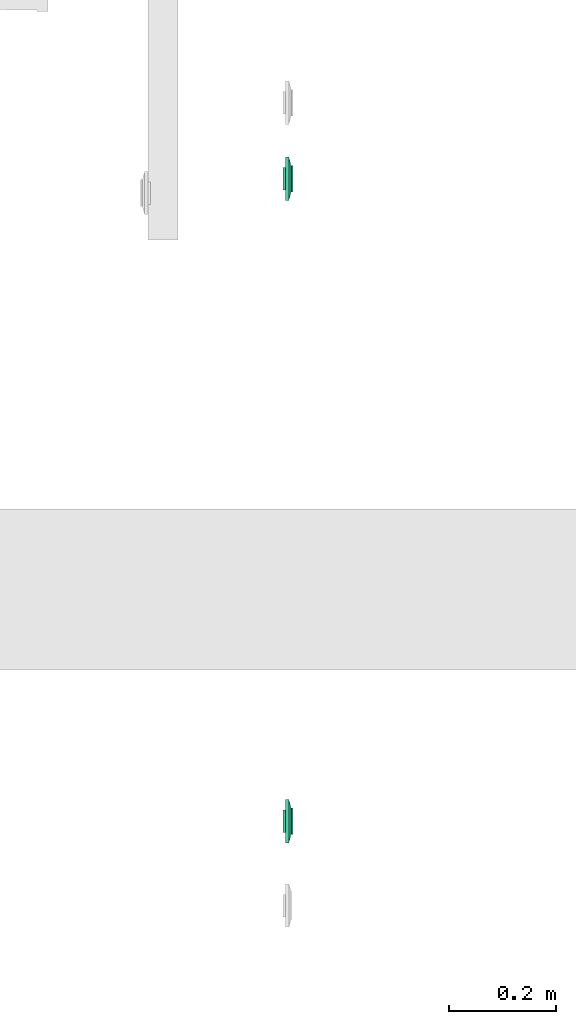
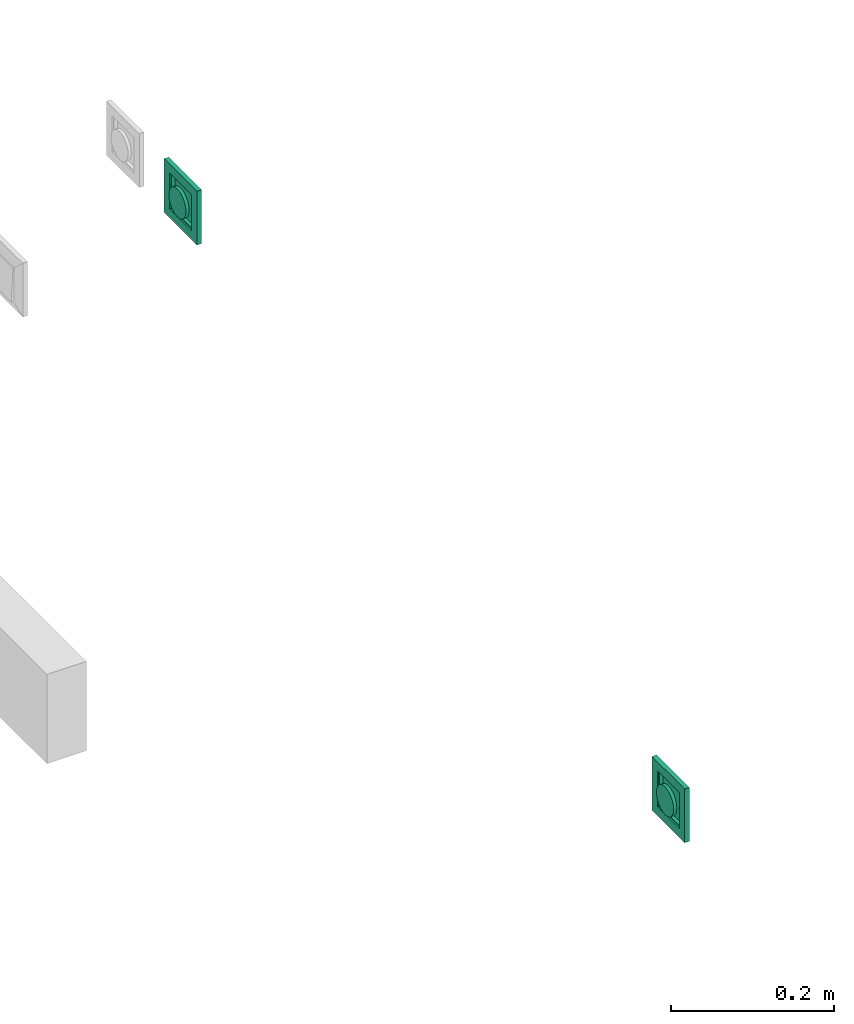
# One storey, part 131 of 153: 2 flow terminals.
"""IFC2X3 building model written with IfcOpenShell, lengths in metres."""

import ifcopenshell
import ifcopenshell.guid

model = None  # the IFC model being written
_history = None  # IfcOwnerHistory: only IFC2X3 demands one
_inside = {}  # id of a spatial element -> (the spatial element, [elements in it])
_under = {}  # id of a project, library or spatial element -> (it, [spatial elements below it])
_declared = {}  # id of a project -> (the project, [libraries it declares])
_typed = {}  # id of a type object -> (the type object, [elements of that type])
_made_of = {}  # id of a material, layer set ... -> (it, [elements and type objects made of it])


def new_model(schema):
    """Start an empty IFC model of exactly this schema.

    Asked for "IFC4X3", IfcOpenShell would pick the latest addendum, in which some entities
    have other attributes; the version numbers below select the first issue.
    IFC2X3 requires an IfcOwnerHistory on every rooted entity: one is made here for all.
    """
    global model, _history
    if schema == "IFC4X3":
        model = ifcopenshell.file(schema_version=(4, 3, 0, 0))
    else:
        model = ifcopenshell.file(schema=schema)
    _inside.clear()
    _under.clear()
    _declared.clear()
    _typed.clear()
    _made_of.clear()
    _history = None
    if model.schema == "IFC2X3":
        org = make("IfcOrganization", Name="unknown")
        user = make(
            "IfcPersonAndOrganization",
            ThePerson=make("IfcPerson", FamilyName="unknown"),
            TheOrganization=org,
        )
        app = make(
            "IfcApplication",
            ApplicationDeveloper=org,
            Version="unknown",
            ApplicationFullName="unknown",
            ApplicationIdentifier="unknown",
        )
        _history = make(
            "IfcOwnerHistory",
            OwningUser=user,
            OwningApplication=app,
            ChangeAction="ADDED",
            CreationDate=0,
        )
    return model


def make(cls, **values):
    """One entity of the class cls with the attributes given. An attribute that is None is left unset."""
    return model.create_entity(
        cls, **{name: value for name, value in values.items() if value is not None}
    )


def entity(cls, *values):
    """Any entity or typed value of the class cls, its attributes in the order of the schema. None: left unset."""
    e = model.create_entity(cls)
    for i, value in enumerate(values):
        if value is not None:
            e[i] = value
    return e


def rooted(cls, **values):
    """An entity with a GlobalId (a new one), such as an element, a storey or a relation."""
    return make(cls, GlobalId=ifcopenshell.guid.new(), OwnerHistory=_history, **values)


def si_unit(unit_type, name, prefix=None):
    """IfcSIUnit, for example si_unit("LENGTHUNIT", "METRE", prefix="MILLI")."""
    return make("IfcSIUnit", UnitType=unit_type, Prefix=prefix, Name=name)


def converted_unit(unit_type, name, factor, base, dimensions=None, offset=None):
    """IfcConversionBasedUnit, such as the inch: factor (a typed value) times the base unit."""
    return make(
        "IfcConversionBasedUnit"
        if offset is None
        else "IfcConversionBasedUnitWithOffset",
        ConversionOffset=offset,
        Dimensions=None
        if dimensions is None
        else entity("IfcDimensionalExponents", *dimensions),
        UnitType=unit_type,
        Name=name,
        ConversionFactor=make(
            "IfcMeasureWithUnit", ValueComponent=factor, UnitComponent=base
        ),
    )


def derived_unit(unit_type, elements):
    """IfcDerivedUnit: a product of units, each with its exponent."""
    return make(
        "IfcDerivedUnit",
        Elements=[
            make("IfcDerivedUnitElement", Unit=unit, Exponent=power)
            for unit, power in elements
        ],
        UnitType=unit_type,
    )


def assignment(units):
    """IfcUnitAssignment: the units of a project."""
    return None if units is None else make("IfcUnitAssignment", Units=units)


def point(xyz):
    """IfcCartesianPoint."""
    return None if xyz is None else make("IfcCartesianPoint", Coordinates=xyz)


def direction(xyz):
    """IfcDirection."""
    return None if xyz is None else make("IfcDirection", DirectionRatios=xyz)


def frame(location, z_axis=None, x_axis=None):
    """IfcAxis2Placement3D, a coordinate frame: its origin and axes. An axis left out is left unset."""
    return make(
        "IfcAxis2Placement3D",
        Location=point(location),
        Axis=direction(z_axis),
        RefDirection=direction(x_axis),
    )


def origin():
    """The frame at (0, 0, 0) with its axes left unset."""
    return frame((0.0, 0.0, 0.0))


def place(relative_to, where):
    """IfcLocalPlacement: puts the frame where relative to a parent placement (None: the world)."""
    return make(
        "IfcLocalPlacement", PlacementRelTo=relative_to, RelativePlacement=where
    )


def context(
    kind, dimensions, precision=None, world=None, true_north=None, identifier=None
):
    """IfcGeometricRepresentationContext, for example the 3D "Model" context."""
    return make(
        "IfcGeometricRepresentationContext",
        ContextIdentifier=identifier,
        ContextType=kind,
        CoordinateSpaceDimension=dimensions,
        Precision=precision,
        WorldCoordinateSystem=world,
        TrueNorth=true_north,
    )


def subcontext(parent, identifier, kind, view, scale=None):
    """IfcGeometricRepresentationSubContext, for example "Body" below "Model"."""
    return make(
        "IfcGeometricRepresentationSubContext",
        ContextIdentifier=identifier,
        ContextType=kind,
        ParentContext=parent,
        TargetScale=scale,
        TargetView=view,
    )


def project(units=None, contexts=None):
    """IfcProject with its units and contexts."""
    return rooted(
        "IfcProject",
        Name="project",
        RepresentationContexts=contexts,
        UnitsInContext=assignment(units),
    )


def spatial(cls, under=None, at=None, **own):
    """A site, building, storey or space (cls), placed at a placement, below another one or the project."""
    s = rooted(cls, ObjectPlacement=at, **own)
    if under is not None:
        _under.setdefault(under.id(), (under, []))[1].append(s)
    return s


def faces_of(points, faces, orient=None, outer=None):
    """IfcFace entities. A face is a list of loops; a loop is a list of indices into points, from 0.

    orient and outer hold one flag for each loop. By default every Orientation is true, the
    first loop of a face is its IfcFaceOuterBound and the others are IfcFaceBound.
    """
    made = []
    for i, loops in enumerate(faces):
        bounds = []
        for j, loop in enumerate(loops):
            is_outer = j == 0 if outer is None else outer[i][j]
            bounds.append(
                make(
                    "IfcFaceOuterBound" if is_outer else "IfcFaceBound",
                    Bound=make("IfcPolyLoop", Polygon=[points[k] for k in loop]),
                    Orientation=True if orient is None else orient[i][j],
                )
            )
        made.append(make("IfcFace", Bounds=bounds))
    return made


def faceted_brep(points, faces, orient=None, outer=None, voids=None):
    """IfcFacetedBrep: a solid bounded by flat faces; with voids (closed shells), ...WithVoids."""
    shared = [point(p) for p in points]
    hull = make("IfcClosedShell", CfsFaces=faces_of(shared, faces, orient, outer))
    if voids is None:
        return make("IfcFacetedBrep", Outer=hull)
    return make(
        "IfcFacetedBrepWithVoids",
        Outer=hull,
        Voids=[
            make(cls, CfsFaces=faces_of(shared, fs, o, b)) for cls, fs, o, b in voids
        ],
    )


def shape(context_of_items, identifier, shape_type, items):
    """IfcShapeRepresentation: the items that make up one representation, for example the "Body"."""
    return make(
        "IfcShapeRepresentation",
        ContextOfItems=context_of_items,
        RepresentationIdentifier=identifier,
        RepresentationType=shape_type,
        Items=items,
    )


def source(mapping_origin, context_of_items, identifier, shape_type, items):
    """IfcRepresentationMap: a shape defined once, which mapped items show again and again."""
    return make(
        "IfcRepresentationMap",
        MappingOrigin=mapping_origin,
        MappedRepresentation=shape(context_of_items, identifier, shape_type, items),
    )


def transform(
    local_origin,
    x_axis=None,
    y_axis=None,
    z_axis=None,
    scale=None,
    scale2=None,
    scale3=None,
    uniform=True,
):
    """IfcCartesianTransformationOperator3D, or its non-uniform kind. x_axis, y_axis, z_axis: its Axis1, 2, 3."""
    if uniform:
        return make(
            "IfcCartesianTransformationOperator3D",
            Axis1=direction(x_axis),
            Axis2=direction(y_axis),
            LocalOrigin=point(local_origin),
            Scale=scale,
            Axis3=direction(z_axis),
        )
    return make(
        "IfcCartesianTransformationOperator3DnonUniform",
        Axis1=direction(x_axis),
        Axis2=direction(y_axis),
        LocalOrigin=point(local_origin),
        Scale=scale,
        Axis3=direction(z_axis),
        Scale2=scale2,
        Scale3=scale3,
    )


def mapped(mapping_source, mapping_target):
    """IfcMappedItem: shows the shape of a source again, moved by a transform."""
    return make(
        "IfcMappedItem", MappingSource=mapping_source, MappingTarget=mapping_target
    )


def made_of(thing, what):
    """Note that an element or type object is made of a material, layer set ...; save() writes the relation."""
    if what is not None:
        _made_of.setdefault(what.id(), (what, []))[1].append(thing)
    return thing


def type_object(cls, material=None, **own):
    """A type object (cls), such as IfcWallType, which elements share."""
    return made_of(rooted(cls, **own), material)


def type_shapes(of_type, sources):
    """Give a type object the sources (RepresentationMaps) that its elements show as mapped items."""
    of_type.RepresentationMaps = sources


def element(
    cls,
    number,
    at=None,
    inside=None,
    cuts=None,
    type_object=None,
    material=None,
    context=None,
    identifier="Body",
    shape_type=None,
    held_by="IfcProductDefinitionShape",
    body=None,
    shapes=None,
    **own,
):
    """One element of the class cls, such as IfcWall. Its Tag is "e" and its number.

    at: its placement. inside: the storey or other place that contains it. cuts: it is an
    opening in that element (IfcRelVoidsElement). A single representation is given by context,
    identifier, shape_type and body (its items); several are given by shapes. held_by: the class
    of the entity that holds the representations. save() writes the other relations.
    """
    e = rooted(cls, Tag="e%d" % number, ObjectPlacement=at, **own)
    if body is not None:
        shapes = [shape(context, identifier, shape_type, body)]
    if shapes is not None:
        e.Representation = make(held_by, Representations=shapes)
    if inside is not None:
        _inside.setdefault(inside.id(), (inside, []))[1].append(e)
    if cuts is not None:
        rooted(
            "IfcRelVoidsElement", RelatingBuildingElement=cuts, RelatedOpeningElement=e
        )
    if type_object is not None:
        _typed.setdefault(type_object.id(), (type_object, []))[1].append(e)
    return made_of(e, material)


def aggregate(whole, parts):
    """IfcRelAggregates: a whole, such as a stair, and the parts it consists of."""
    return rooted("IfcRelAggregates", RelatingObject=whole, RelatedObjects=parts)


def save(model, path):
    """Write the relations noted so far, then the file.

    IfcRelAggregates (storeys below a building ...), IfcRelContainedInSpatialStructure (elements
    in a storey), IfcRelDefinesByType, IfcRelAssociatesMaterial and IfcRelDeclares: one each for
    every whole, place, type object, material and project.
    """
    for whole, parts in _under.values():
        aggregate(whole, parts)
    for where, things in _inside.values():
        rooted(
            "IfcRelContainedInSpatialStructure",
            RelatedElements=things,
            RelatingStructure=where,
        )
    for kind, things in _typed.values():
        rooted("IfcRelDefinesByType", RelatedObjects=things, RelatingType=kind)
    for what, things in _made_of.values():
        rooted("IfcRelAssociatesMaterial", RelatedObjects=things, RelatingMaterial=what)
    for by, libraries in _declared.values():
        rooted("IfcRelDeclares", RelatingContext=by, RelatedDefinitions=libraries)
    model.write(path)


model = new_model("IFC2X3")

# Units and contexts
model_context = context("Model", 3, precision=1e-05, world=origin(), true_north=direction((6.12303176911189e-17, 1.0)))
body_context = subcontext(model_context, "Body", "Model", "MODEL_VIEW")
ifc_project = project(units=[si_unit("LENGTHUNIT", "METRE"), si_unit("AREAUNIT", "SQUARE_METRE"), si_unit("VOLUMEUNIT", "CUBIC_METRE"), converted_unit("PLANEANGLEUNIT", "DEGREE", entity("IfcRatioMeasure", 0.0174532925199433), si_unit("PLANEANGLEUNIT", "RADIAN"), dimensions=[0, 0, 0, 0, 0, 0, 0]), si_unit("MASSUNIT", "GRAM", prefix="KILO"), derived_unit("MASSDENSITYUNIT", [(si_unit("MASSUNIT", "GRAM", prefix="KILO"), 1), (si_unit("LENGTHUNIT", "METRE"), -3)]), si_unit("TIMEUNIT", "SECOND"), si_unit("FREQUENCYUNIT", "HERTZ"), si_unit("THERMODYNAMICTEMPERATUREUNIT", "DEGREE_CELSIUS"), derived_unit("THERMALTRANSMITTANCEUNIT", [(si_unit("MASSUNIT", "GRAM", prefix="KILO"), 1), (si_unit("THERMODYNAMICTEMPERATUREUNIT", "KELVIN"), -1), (si_unit("TIMEUNIT", "SECOND"), -3)]), derived_unit("VOLUMETRICFLOWRATEUNIT", [(si_unit("LENGTHUNIT", "METRE"), 3), (si_unit("TIMEUNIT", "SECOND"), -1)]), si_unit("ELECTRICCURRENTUNIT", "AMPERE"), si_unit("ELECTRICVOLTAGEUNIT", "VOLT"), si_unit("POWERUNIT", "WATT"), si_unit("FORCEUNIT", "NEWTON"), si_unit("ILLUMINANCEUNIT", "LUX"), si_unit("LUMINOUSFLUXUNIT", "LUMEN"), si_unit("LUMINOUSINTENSITYUNIT", "CANDELA"), derived_unit("USERDEFINED", [(si_unit("MASSUNIT", "GRAM", prefix="KILO"), -1), (si_unit("LENGTHUNIT", "METRE"), -2), (si_unit("TIMEUNIT", "SECOND"), 3), (si_unit("LUMINOUSFLUXUNIT", "LUMEN"), 1)]), derived_unit("LINEARVELOCITYUNIT", [(si_unit("LENGTHUNIT", "METRE"), 1), (si_unit("TIMEUNIT", "SECOND"), -1)]), si_unit("PRESSUREUNIT", "PASCAL"), derived_unit("USERDEFINED", [(si_unit("LENGTHUNIT", "METRE"), -2), (si_unit("MASSUNIT", "GRAM", prefix="KILO"), 1), (si_unit("TIMEUNIT", "SECOND"), -2)])], contexts=[model_context])

# Site, building, storey
site_placement = place(None, origin())
site = spatial("IfcSite", under=ifc_project, at=site_placement, Name="Default", CompositionType="ELEMENT")
building_placement = place(site_placement, origin())
building = spatial("IfcBuilding", under=site, at=building_placement, CompositionType="ELEMENT")
storey_placement = place(building_placement, frame((0.0, 0.0, -4.62)))
storey = spatial("IfcBuildingStorey", under=building, at=storey_placement, Name="S02", CompositionType="ELEMENT", Elevation=-4.62)

# Flow terminals
light_fixture_type_1 = type_object("IfcLightFixtureType", Name="VV IP44", PredefinedType="NOTDEFINED")
shared_shape_1 = source(origin(), body_context, "Body", "Brep", [
    faceted_brep([(0.0, 0.0209999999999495, -0.00460000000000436), (0.00543519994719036, 0.02028444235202, -0.00460000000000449), (0.0105000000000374, 0.0181865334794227, -0.00460000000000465), (0.0148492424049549, 0.014849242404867, -0.00460000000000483), (0.0181865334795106, 0.0104999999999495, -0.00460000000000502), (0.0202844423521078, 0.00543519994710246, -0.00460000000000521), (0.0210000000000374, 0.0, -0.00460000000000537), (0.0202844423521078, -0.00543519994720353, -0.00460000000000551), (0.0181865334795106, -0.0105000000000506, -0.0046000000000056), (0.0148492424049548, -0.0148492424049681, -0.00460000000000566), (0.0105000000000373, -0.0181865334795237, -0.00460000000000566), (0.00543519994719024, -0.0202844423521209, -0.00460000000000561), (0.0, -0.0210000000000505, -0.00460000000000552), (-0.00543519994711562, -0.0202844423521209, -0.00460000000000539), (-0.0104999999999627, -0.0181865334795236, -0.00460000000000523), (-0.0148492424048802, -0.0148492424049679, -0.00460000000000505), (-0.0181865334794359, -0.0105000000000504, -0.00460000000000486), (-0.0202844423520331, -0.00543519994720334, -0.00460000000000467), (-0.0209999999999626, 0.0, -0.00460000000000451), (-0.020284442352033, 0.00543519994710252, -0.00460000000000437), (-0.0181865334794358, 0.0104999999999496, -0.00460000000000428), (-0.0148492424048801, 0.0148492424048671, -0.00460000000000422), (-0.0104999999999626, 0.0181865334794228, -0.00460000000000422), (-0.00543519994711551, 0.02028444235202, -0.00460000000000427), (-0.020284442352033, -0.00543519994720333, 0.0), (-0.0209999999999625, 0.0, 0.0), (-0.0181865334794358, -0.0105000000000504, 0.0), (-0.0104999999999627, -0.0181865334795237, 0.0), (-0.0148492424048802, -0.0148492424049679, 0.0), (-0.00543519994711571, -0.020284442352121, 0.0), (0.0, -0.0210000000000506, 0.0), (0.00543519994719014, -0.0202844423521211, 0.0), (0.0105000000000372, -0.018186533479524, 0.0), (0.0181865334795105, -0.0105000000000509, 0.0), (0.0148492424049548, -0.0148492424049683, 0.0), (0.0202844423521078, -0.00543519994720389, 0.0), (0.0210000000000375, 0.0, 0.0), (0.0202844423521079, 0.00543519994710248, 0.0), (0.0181865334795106, 0.0104999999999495, 0.0), (0.0105000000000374, 0.0181865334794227, 0.0), (0.0148492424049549, 0.014849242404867, 0.0), (0.00543519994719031, 0.0202844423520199, 0.0), (0.0, 0.0209999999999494, 0.0), (-0.00543519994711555, 0.0202844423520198, 0.0), (-0.0104999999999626, 0.0181865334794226, 0.0), (-0.0181865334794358, 0.0104999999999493, 0.0), (-0.0148492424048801, 0.0148492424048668, 0.0), (-0.020284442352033, 0.00543519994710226, 0.0)], [[[0, 1, 2, 3, 4, 5, 6, 7, 8, 9, 10, 11, 12, 13, 14, 15, 16, 17, 18, 19, 20, 21, 22, 23]], [[17, 24, 25, 18]], [[16, 26, 24, 17]], [[27, 28, 15, 14]], [[16, 15, 28, 26]], [[29, 27, 14, 13]], [[30, 29, 13, 12]], [[11, 31, 30, 12]], [[10, 32, 31, 11]], [[33, 34, 9, 8]], [[10, 9, 34, 32]], [[35, 33, 8, 7]], [[36, 35, 7, 6]], [[5, 37, 36, 6]], [[4, 38, 37, 5]], [[39, 40, 3, 2]], [[4, 3, 40, 38]], [[41, 39, 2, 1]], [[42, 41, 1, 0]], [[23, 43, 42, 0]], [[22, 44, 43, 23]], [[45, 46, 21, 20]], [[22, 21, 46, 44]], [[47, 45, 20, 19]], [[25, 47, 19, 18]], [[25, 24, 26, 28, 27, 29, 30, 31, 32, 34, 33, 35, 36, 37, 38, 40, 39, 41, 42, 43, 44, 46, 45, 47]]]),
    faceted_brep([(0.0270000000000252, 0.026999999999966, 0.0103999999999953), (-0.0269999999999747, 0.026999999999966, 0.0103999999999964), (-0.0269999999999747, -0.0270000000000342, 0.0103999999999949), (0.0270000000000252, -0.0270000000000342, 0.0103999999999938), (-0.0254999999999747, 0.0258096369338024, 0.0103999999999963), (0.0255000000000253, 0.0258096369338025, 0.0103999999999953), (0.0255000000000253, -0.0255000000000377, 0.0103999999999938), (-0.0254999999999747, -0.0255000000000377, 0.0103999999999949), (0.0270000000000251, 0.0269999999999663, 0.00199999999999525), (0.0270000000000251, -0.0270000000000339, 0.00199999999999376), (-0.0269999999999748, -0.0270000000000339, 0.00199999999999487), (-0.0269999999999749, 0.0269999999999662, 0.00199999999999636), (0.0255000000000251, 0.0258096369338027, 0.00199999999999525), (-0.0254999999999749, 0.0258096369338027, 0.0019999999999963), (-0.0254999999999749, -0.0255000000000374, 0.00199999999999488), (0.0255000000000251, -0.0255000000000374, 0.00199999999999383)], [[[0, 1, 2, 3], [4, 5, 6, 7]], [[8, 9, 10, 11], [12, 13, 14, 15]], [[1, 0, 8, 11]], [[2, 1, 11, 10]], [[3, 2, 10, 9]], [[0, 3, 9, 8]], [[12, 5, 4, 13]], [[13, 4, 7, 14]], [[14, 7, 6, 15]], [[5, 12, 15, 6]]]),
    faceted_brep([(0.0250000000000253, 0.0253096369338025, 0.00659999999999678), (0.0250000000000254, 0.0253096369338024, 0.0117095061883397), (0.0250000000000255, -0.0245000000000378, 0.0142232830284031), (0.0250000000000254, -0.0250000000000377, 0.0117095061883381), (0.0250000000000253, -0.0250000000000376, 0.00659999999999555), (-0.0249999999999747, 0.0253096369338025, 0.00659999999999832), (-0.0249999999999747, -0.0250000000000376, 0.00659999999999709), (-0.0249999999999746, -0.0250000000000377, 0.0117095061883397), (-0.0249999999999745, -0.0245000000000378, 0.0142232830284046), (-0.0249999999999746, 0.0253096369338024, 0.0117095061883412)], [[[0, 1, 2, 3, 4]], [[5, 6, 7, 8, 9]], [[1, 0, 5, 9]], [[2, 1, 9, 8]], [[3, 2, 8, 7]], [[4, 3, 7, 6]], [[0, 4, 6, 5]]]),
    faceted_brep([(0.027000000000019, 0.0269999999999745, 0.00659999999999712), (-0.0269999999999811, 0.0269999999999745, 0.00659999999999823), (-0.026999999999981, -0.0270000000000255, 0.00659999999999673), (0.027000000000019, -0.0270000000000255, 0.00659999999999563), (0.040350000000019, 0.0403499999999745, 0.00659999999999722), (0.040350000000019, -0.0403500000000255, 0.00659999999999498), (-0.0403499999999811, -0.0403500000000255, 0.00659999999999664), (-0.0403499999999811, 0.0403499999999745, 0.00659999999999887), (-0.026999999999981, 0.0269999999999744, 0.0103999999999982), (0.027000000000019, 0.0269999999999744, 0.0103999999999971), (-0.026999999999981, -0.0270000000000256, 0.0103999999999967), (0.027000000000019, -0.0270000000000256, 0.0103999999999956)], [[[0, 1, 2, 3], [4, 5, 6, 7]], [[4, 7, 8, 9]], [[7, 6, 10, 8]], [[6, 5, 11, 10]], [[5, 4, 9, 11]], [[0, 9, 8, 1]], [[1, 8, 10, 2]], [[2, 10, 11, 3]], [[9, 0, 3, 11]]], outer=[[False, True], [True], [True], [True], [True], [True], [True], [True], [True]]),
    faceted_brep([(0.040350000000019, 0.0403499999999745, 0.00659999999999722), (-0.0403499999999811, 0.0403499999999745, 0.00659999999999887), (-0.0403499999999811, -0.0403500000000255, 0.00659999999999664), (0.040350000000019, -0.0403500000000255, 0.00659999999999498), (-0.0269999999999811, 0.0269999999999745, 0.00659999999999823), (0.0270000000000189, 0.0269999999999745, 0.00659999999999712), (0.0270000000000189, -0.0270000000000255, 0.00659999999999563), (-0.0269999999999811, -0.0270000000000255, 0.00659999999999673), (0.0403500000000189, 0.0403499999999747, 0.0), (0.0403500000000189, -0.0403500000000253, 0.0), (-0.0403499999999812, -0.0403500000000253, 0.0), (-0.0403499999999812, 0.0403499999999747, 0.0), (0.0270000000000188, 0.0269999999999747, 0.0), (-0.0269999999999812, 0.0269999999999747, 0.0), (-0.0269999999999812, -0.0270000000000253, 0.0), (0.0270000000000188, -0.0270000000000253, 0.0)], [[[0, 1, 2, 3], [4, 5, 6, 7]], [[8, 9, 10, 11], [12, 13, 14, 15]], [[1, 0, 8, 11]], [[2, 1, 11, 10]], [[3, 2, 10, 9]], [[0, 3, 9, 8]], [[12, 5, 4, 13]], [[13, 4, 7, 14]], [[14, 7, 6, 15]], [[5, 12, 15, 6]]]),
])
type_shapes(light_fixture_type_1, [shared_shape_1])
flow_terminal_1_placement = place(storey_placement, frame((61.5897436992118, -189.132703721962, 0.880000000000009), z_axis=(1.0, 0.0, 0.0), x_axis=(0.0, 1.0, 0.0)))
element("IfcFlowTerminal", 1, at=flow_terminal_1_placement, inside=storey, type_object=light_fixture_type_1, Name="INT_Inter VV:VV IP44", ObjectType="INT_Inter VV:VV IP44", context=body_context, shape_type="MappedRepresentation", body=[
    mapped(shared_shape_1, transform((0.0, 0.0, 0.0), scale=1.0)),
])
light_fixture_type_2 = type_object("IfcLightFixtureType", Name="BP IP21", PredefinedType="NOTDEFINED")
shared_shape_2 = source(origin(), body_context, "Body", "Brep", [
    faceted_brep([(0.0, 0.0209999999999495, -0.00460000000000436), (0.00543519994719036, 0.02028444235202, -0.00460000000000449), (0.0105000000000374, 0.0181865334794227, -0.00460000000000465), (0.0148492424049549, 0.014849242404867, -0.00460000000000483), (0.0181865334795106, 0.0104999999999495, -0.00460000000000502), (0.0202844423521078, 0.00543519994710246, -0.00460000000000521), (0.0210000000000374, 0.0, -0.00460000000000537), (0.0202844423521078, -0.00543519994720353, -0.00460000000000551), (0.0181865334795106, -0.0105000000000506, -0.0046000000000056), (0.0148492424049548, -0.0148492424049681, -0.00460000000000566), (0.0105000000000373, -0.0181865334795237, -0.00460000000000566), (0.00543519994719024, -0.0202844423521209, -0.00460000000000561), (0.0, -0.0210000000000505, -0.00460000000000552), (-0.00543519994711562, -0.0202844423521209, -0.00460000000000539), (-0.0104999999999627, -0.0181865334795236, -0.00460000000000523), (-0.0148492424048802, -0.0148492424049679, -0.00460000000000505), (-0.0181865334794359, -0.0105000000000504, -0.00460000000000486), (-0.0202844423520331, -0.00543519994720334, -0.00460000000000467), (-0.0209999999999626, 0.0, -0.00460000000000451), (-0.020284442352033, 0.00543519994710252, -0.00460000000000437), (-0.0181865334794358, 0.0104999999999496, -0.00460000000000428), (-0.0148492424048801, 0.0148492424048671, -0.00460000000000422), (-0.0104999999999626, 0.0181865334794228, -0.00460000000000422), (-0.00543519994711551, 0.02028444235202, -0.00460000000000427), (-0.020284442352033, -0.00543519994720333, 0.0), (-0.0209999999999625, 0.0, 0.0), (-0.0181865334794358, -0.0105000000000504, 0.0), (-0.0104999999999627, -0.0181865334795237, 0.0), (-0.0148492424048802, -0.0148492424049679, 0.0), (-0.00543519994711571, -0.020284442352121, 0.0), (0.0, -0.0210000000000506, 0.0), (0.00543519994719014, -0.0202844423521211, 0.0), (0.0105000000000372, -0.018186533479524, 0.0), (0.0181865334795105, -0.0105000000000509, 0.0), (0.0148492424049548, -0.0148492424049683, 0.0), (0.0202844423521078, -0.00543519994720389, 0.0), (0.0210000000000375, 0.0, 0.0), (0.0202844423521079, 0.00543519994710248, 0.0), (0.0181865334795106, 0.0104999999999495, 0.0), (0.0105000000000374, 0.0181865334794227, 0.0), (0.0148492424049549, 0.014849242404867, 0.0), (0.00543519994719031, 0.0202844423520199, 0.0), (0.0, 0.0209999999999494, 0.0), (-0.00543519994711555, 0.0202844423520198, 0.0), (-0.0104999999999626, 0.0181865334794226, 0.0), (-0.0181865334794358, 0.0104999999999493, 0.0), (-0.0148492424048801, 0.0148492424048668, 0.0), (-0.020284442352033, 0.00543519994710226, 0.0)], [[[0, 1, 2, 3, 4, 5, 6, 7, 8, 9, 10, 11, 12, 13, 14, 15, 16, 17, 18, 19, 20, 21, 22, 23]], [[17, 24, 25, 18]], [[16, 26, 24, 17]], [[27, 28, 15, 14]], [[16, 15, 28, 26]], [[29, 27, 14, 13]], [[30, 29, 13, 12]], [[11, 31, 30, 12]], [[10, 32, 31, 11]], [[33, 34, 9, 8]], [[10, 9, 34, 32]], [[35, 33, 8, 7]], [[36, 35, 7, 6]], [[5, 37, 36, 6]], [[4, 38, 37, 5]], [[39, 40, 3, 2]], [[4, 3, 40, 38]], [[41, 39, 2, 1]], [[42, 41, 1, 0]], [[23, 43, 42, 0]], [[22, 44, 43, 23]], [[45, 46, 21, 20]], [[22, 21, 46, 44]], [[47, 45, 20, 19]], [[25, 47, 19, 18]], [[25, 24, 26, 28, 27, 29, 30, 31, 32, 34, 33, 35, 36, 37, 38, 40, 39, 41, 42, 43, 44, 46, 45, 47]]]),
    faceted_brep([(0.0270000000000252, 0.026999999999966, 0.0103999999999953), (-0.0269999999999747, 0.026999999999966, 0.0103999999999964), (-0.0269999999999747, -0.0270000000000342, 0.0103999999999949), (0.0270000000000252, -0.0270000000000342, 0.0103999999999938), (-0.0254999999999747, 0.0258096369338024, 0.0103999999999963), (0.0255000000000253, 0.0258096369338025, 0.0103999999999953), (0.0255000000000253, -0.0255000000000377, 0.0103999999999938), (-0.0254999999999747, -0.0255000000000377, 0.0103999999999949), (0.0270000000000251, 0.0269999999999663, 0.00199999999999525), (0.0270000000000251, -0.0270000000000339, 0.00199999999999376), (-0.0269999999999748, -0.0270000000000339, 0.00199999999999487), (-0.0269999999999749, 0.0269999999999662, 0.00199999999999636), (0.0255000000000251, 0.0258096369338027, 0.00199999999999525), (-0.0254999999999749, 0.0258096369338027, 0.0019999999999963), (-0.0254999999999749, -0.0255000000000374, 0.00199999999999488), (0.0255000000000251, -0.0255000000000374, 0.00199999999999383)], [[[0, 1, 2, 3], [4, 5, 6, 7]], [[8, 9, 10, 11], [12, 13, 14, 15]], [[1, 0, 8, 11]], [[2, 1, 11, 10]], [[3, 2, 10, 9]], [[0, 3, 9, 8]], [[12, 5, 4, 13]], [[13, 4, 7, 14]], [[14, 7, 6, 15]], [[5, 12, 15, 6]]]),
    faceted_brep([(0.0250000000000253, 0.0253096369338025, 0.00659999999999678), (0.0250000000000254, 0.0253096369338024, 0.0117095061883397), (0.0250000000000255, -0.0245000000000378, 0.0142232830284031), (0.0250000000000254, -0.0250000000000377, 0.0117095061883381), (0.0250000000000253, -0.0250000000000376, 0.00659999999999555), (-0.0249999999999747, 0.0253096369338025, 0.00659999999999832), (-0.0249999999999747, -0.0250000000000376, 0.00659999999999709), (-0.0249999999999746, -0.0250000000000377, 0.0117095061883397), (-0.0249999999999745, -0.0245000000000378, 0.0142232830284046), (-0.0249999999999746, 0.0253096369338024, 0.0117095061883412)], [[[0, 1, 2, 3, 4]], [[5, 6, 7, 8, 9]], [[1, 0, 5, 9]], [[2, 1, 9, 8]], [[3, 2, 8, 7]], [[4, 3, 7, 6]], [[0, 4, 6, 5]]]),
    faceted_brep([(0.027000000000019, 0.0269999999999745, 0.00659999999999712), (-0.0269999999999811, 0.0269999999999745, 0.00659999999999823), (-0.026999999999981, -0.0270000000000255, 0.00659999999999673), (0.027000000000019, -0.0270000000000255, 0.00659999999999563), (0.040350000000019, 0.0403499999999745, 0.00659999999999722), (0.040350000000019, -0.0403500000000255, 0.00659999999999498), (-0.0403499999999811, -0.0403500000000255, 0.00659999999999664), (-0.0403499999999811, 0.0403499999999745, 0.00659999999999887), (-0.026999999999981, 0.0269999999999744, 0.0103999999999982), (0.027000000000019, 0.0269999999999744, 0.0103999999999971), (-0.026999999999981, -0.0270000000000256, 0.0103999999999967), (0.027000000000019, -0.0270000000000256, 0.0103999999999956)], [[[0, 1, 2, 3], [4, 5, 6, 7]], [[4, 7, 8, 9]], [[7, 6, 10, 8]], [[6, 5, 11, 10]], [[5, 4, 9, 11]], [[0, 9, 8, 1]], [[1, 8, 10, 2]], [[2, 10, 11, 3]], [[9, 0, 3, 11]]], outer=[[False, True], [True], [True], [True], [True], [True], [True], [True], [True]]),
    faceted_brep([(0.040350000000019, 0.0403499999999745, 0.00659999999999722), (-0.0403499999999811, 0.0403499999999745, 0.00659999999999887), (-0.0403499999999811, -0.0403500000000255, 0.00659999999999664), (0.040350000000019, -0.0403500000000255, 0.00659999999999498), (-0.0269999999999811, 0.0269999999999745, 0.00659999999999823), (0.0270000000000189, 0.0269999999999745, 0.00659999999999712), (0.0270000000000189, -0.0270000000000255, 0.00659999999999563), (-0.0269999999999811, -0.0270000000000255, 0.00659999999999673), (0.0403500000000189, 0.0403499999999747, 0.0), (0.0403500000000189, -0.0403500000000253, 0.0), (-0.0403499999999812, -0.0403500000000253, 0.0), (-0.0403499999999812, 0.0403499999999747, 0.0), (0.0270000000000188, 0.0269999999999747, 0.0), (-0.0269999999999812, 0.0269999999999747, 0.0), (-0.0269999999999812, -0.0270000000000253, 0.0), (0.0270000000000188, -0.0270000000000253, 0.0)], [[[0, 1, 2, 3], [4, 5, 6, 7]], [[8, 9, 10, 11], [12, 13, 14, 15]], [[1, 0, 8, 11]], [[2, 1, 11, 10]], [[3, 2, 10, 9]], [[0, 3, 9, 8]], [[12, 5, 4, 13]], [[13, 4, 7, 14]], [[14, 7, 6, 15]], [[5, 12, 15, 6]]]),
])
type_shapes(light_fixture_type_2, [shared_shape_2])
flow_terminal_2_placement = place(building_placement, frame((61.5897436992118, -187.933842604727, -3.56999999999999), z_axis=(1.0, 0.0, 0.0), x_axis=(0.0, 1.0, 0.0)))
element("IfcFlowTerminal", 2, at=flow_terminal_2_placement, inside=storey, type_object=light_fixture_type_2, Name="INT_Cmd BA:BP IP21", ObjectType="INT_Cmd BA:BP IP21", context=body_context, shape_type="MappedRepresentation", body=[
    mapped(shared_shape_2, transform((0.0, 0.0, 0.0), scale=1.0)),
])

save(model, "model.ifc")
